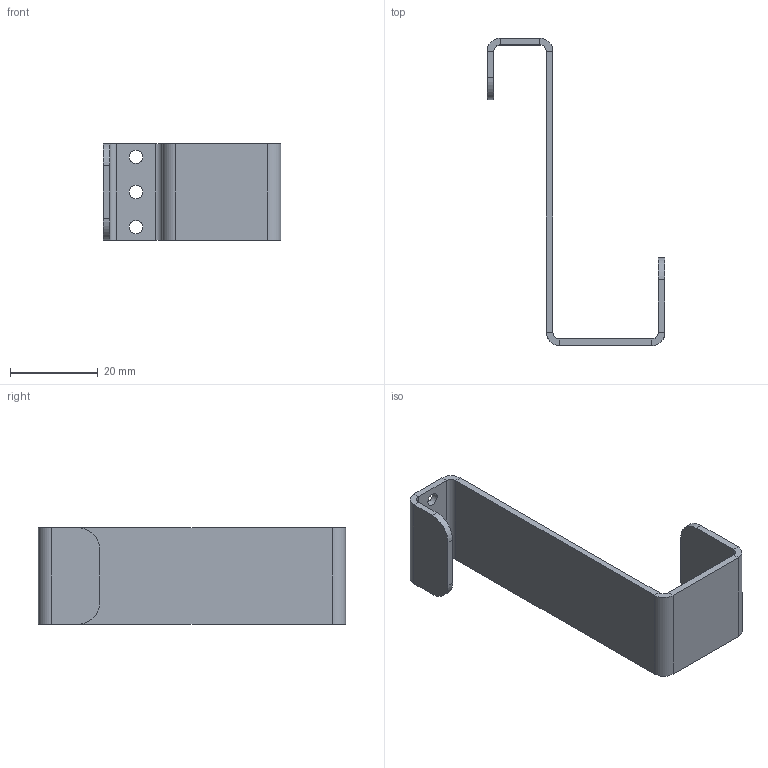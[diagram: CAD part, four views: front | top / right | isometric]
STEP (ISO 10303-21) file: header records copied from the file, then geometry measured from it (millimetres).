
FILE_DESCRIPTION(/* description */ (''),/* implementation_level */ '2;1');
FILE_NAME(/* name */ 'D:\DABSTORY\Folder dabstory pulpit - 16.03.2020\1. Oferta łazienkowa\Prototypy\Haczyk na ściane prysznicową\Model 3d\Wieszak na grzejnik.ściane prysznica.stp',/* time_stamp */ '2020-12-29T23:41:48+01:00',/* author */ ('Verical'),/* organization */ (''),/* preprocessor_version */ 'ST-DEVELOPER v17',/* originating_system */ 'Autodesk Inventor 2018',/* authorisation */ '');
FILE_SCHEMA (('AUTOMOTIVE_DESIGN { 1 0 10303 214 3 1 1 }'));
Length unit declared in the file: millimetre
Products named in the file (1): Wieszak na grzejnik.ściane prysznica
Bounding box: 40.5 x 70 x 22 mm (x, y, z)
Volume: 4428.5 mm3; surface area: 6408.7 mm2
Topology: 1 solids, 1 shells, 45 faces, 103 edges, 60 vertices
Faces by surface type: plane 30, cylinder 15
Full cylindrical faces by diameter (mm): 3 x3
Entity records: 1296 total; most frequent: DIRECTION 231, CARTESIAN_POINT 209, ORIENTED_EDGE 206, EDGE_CURVE 103, AXIS2_PLACEMENT_3D 82, LINE 67, VECTOR 67, VERTEX_POINT 60
